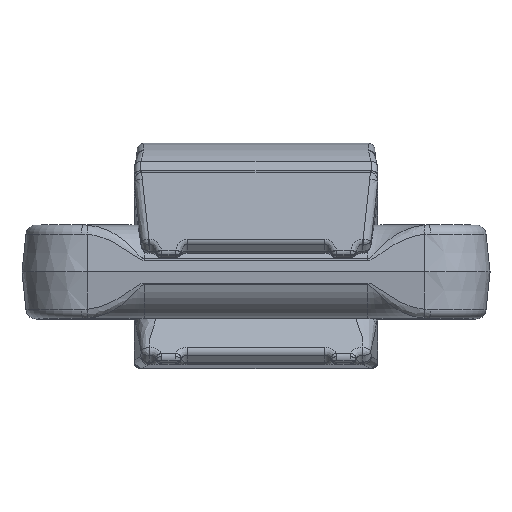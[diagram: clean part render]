
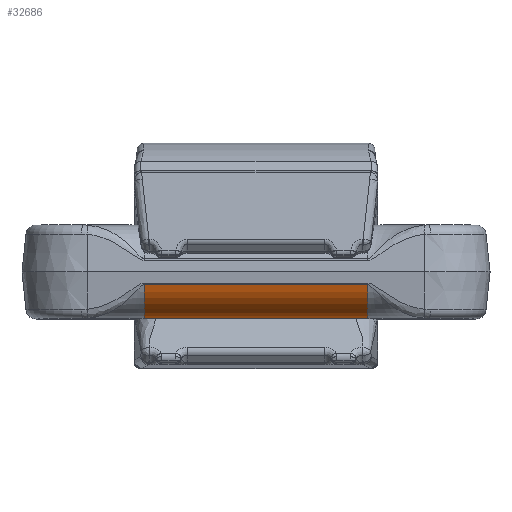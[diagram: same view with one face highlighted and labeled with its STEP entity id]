
A CAD part, top view. The second image highlights one B-rep face of the part: STEP entity #32686.
In plain terms, the highlighted cylindrical face has radius 11.4 mm (diameter 22.8 mm), a partial arc.
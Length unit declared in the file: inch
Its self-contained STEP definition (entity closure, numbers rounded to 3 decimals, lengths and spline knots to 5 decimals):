
#266 = CARTESIAN_POINT ( 'NONE',  ( 1.08268, -0.12759, 3.14903 ) ) ;
#1872 = CIRCLE ( 'NONE', #54153, 0.44882 ) ;
#7041 = AXIS2_PLACEMENT_3D ( 'NONE', #57182, #14263, #24570 ) ;
#8536 = DIRECTION ( 'NONE',  ( -1., 0., 0. ) ) ;
#8796 = ORIENTED_EDGE ( 'NONE', *, *, #32532, .F. ) ;
#9218 = DIRECTION ( 'NONE',  ( 0., 0., 1. ) ) ;
#12651 = AXIS2_PLACEMENT_3D ( 'NONE', #47524, #28784, #9218 ) ;
#14212 = VERTEX_POINT ( 'NONE', #28995 ) ;
#14263 = DIRECTION ( 'NONE',  ( -1., 0., 0. ) ) ;
#15913 = CARTESIAN_POINT ( 'NONE',  ( -1.08268, -0.45276, 2.71759 ) ) ;
#16240 = CYLINDRICAL_SURFACE ( 'NONE', #7041, 0.44882 ) ;
#18185 = CARTESIAN_POINT ( 'NONE',  ( 1.08268, -0.00394, 2.71759 ) ) ;
#18533 = ORIENTED_EDGE ( 'NONE', *, *, #24146, .T. ) ;
#19617 = DIRECTION ( 'NONE',  ( -1., 0., 0. ) ) ;
#22664 = VECTOR ( 'NONE', #49204, 39.37008 ) ;
#23261 = ORIENTED_EDGE ( 'NONE', *, *, #33528, .T. ) ;
#23791 = FACE_OUTER_BOUND ( 'NONE', #56671, .T. ) ;
#24146 = EDGE_CURVE ( 'NONE', #62184, #38141, #1872, .T. ) ;
#24570 = DIRECTION ( 'NONE',  ( 0., 0., 1. ) ) ;
#27686 = ORIENTED_EDGE ( 'NONE', *, *, #55660, .F. ) ;
#28784 = DIRECTION ( 'NONE',  ( -1., 0., 0. ) ) ;
#28995 = CARTESIAN_POINT ( 'NONE',  ( -1.08268, -0.45276, 2.71759 ) ) ;
#32532 = EDGE_CURVE ( 'NONE', #14212, #34743, #46392, .T. ) ;
#32686 = ADVANCED_FACE ( 'NONE', ( #23791 ), #16240, .T. ) ;
#33528 = EDGE_CURVE ( 'NONE', #38141, #34743, #38030, .T. ) ;
#34743 = VERTEX_POINT ( 'NONE', #39605 ) ;
#37463 = CARTESIAN_POINT ( 'NONE',  ( 1.08268, -0.45276, 2.71759 ) ) ;
#38030 = LINE ( 'NONE', #266, #50877 ) ;
#38141 = VERTEX_POINT ( 'NONE', #60210 ) ;
#39605 = CARTESIAN_POINT ( 'NONE',  ( -1.08268, -0.12759, 3.14903 ) ) ;
#46392 = CIRCLE ( 'NONE', #12651, 0.44882 ) ;
#47524 = CARTESIAN_POINT ( 'NONE',  ( -1.08268, -0.00394, 2.71759 ) ) ;
#48292 = LINE ( 'NONE', #15913, #22664 ) ;
#49204 = DIRECTION ( 'NONE',  ( -1., 0., 0. ) ) ;
#50877 = VECTOR ( 'NONE', #19617, 39.37008 ) ;
#54153 = AXIS2_PLACEMENT_3D ( 'NONE', #18185, #8536, #61558 ) ;
#55660 = EDGE_CURVE ( 'NONE', #62184, #14212, #48292, .T. ) ;
#56671 = EDGE_LOOP ( 'NONE', ( #18533, #23261, #8796, #27686 ) ) ;
#57182 = CARTESIAN_POINT ( 'NONE',  ( 1.08268, -0.00394, 2.71759 ) ) ;
#60210 = CARTESIAN_POINT ( 'NONE',  ( 1.08268, -0.12759, 3.14903 ) ) ;
#61558 = DIRECTION ( 'NONE',  ( 0., 0., 1. ) ) ;
#62184 = VERTEX_POINT ( 'NONE', #37463 ) ;
